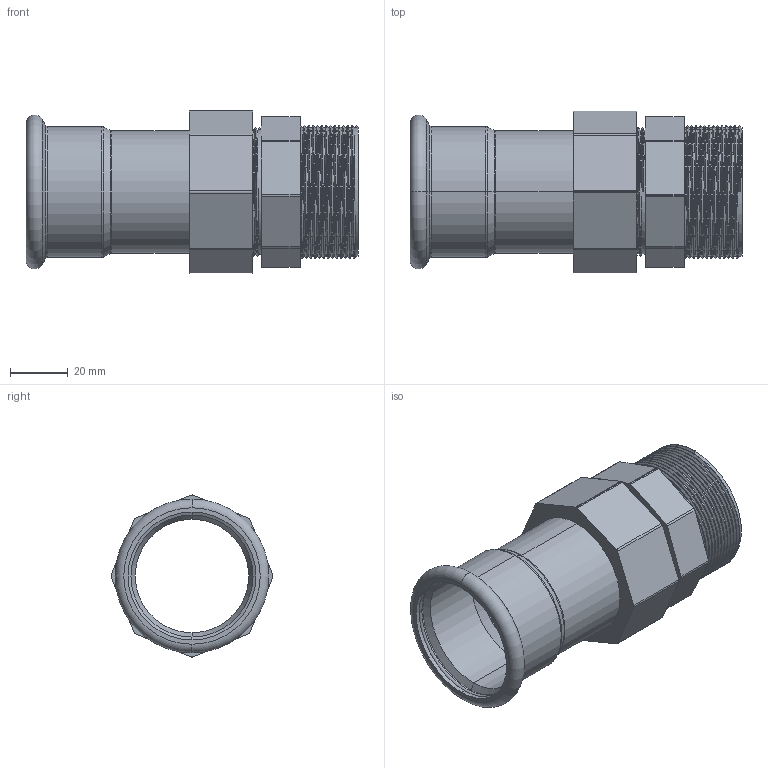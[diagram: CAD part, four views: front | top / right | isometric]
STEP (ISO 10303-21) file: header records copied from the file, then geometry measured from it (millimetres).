
FILE_DESCRIPTION (( 'STEP AP214' ), '1' );
FILE_NAME ('M42400K.STEP', '2025-08-17T07:02:25', ( '' ), ( '' ), 'SwSTEP 2.0', 'SolidWorks 2020', '' );
FILE_SCHEMA (( 'AUTOMOTIVE_DESIGN' ));
Length unit declared in the file: millimetre
Products named in the file (1): M42400K
Bounding box: 115 x 56.11 x 56.12 mm (x, y, z)
Volume: 48680.9 mm3; surface area: 45452.2 mm2
Topology: 3 solids, 3 shells, 158 faces, 405 edges, 257 vertices
Faces by surface type: cylinder 94, plane 31, torus 14, cone 10, bspline 9
Entity records: 11070 total; most frequent: CARTESIAN_POINT 5759, ORIENTED_EDGE 810, DIRECTION 685, EDGE_CURVE 405, AXIS2_PLACEMENT_3D 260, VERTEX_POINT 257, EDGE_LOOP 168, VECTOR 165
